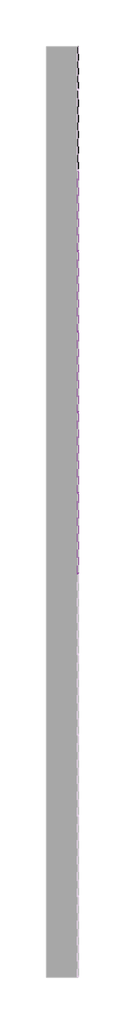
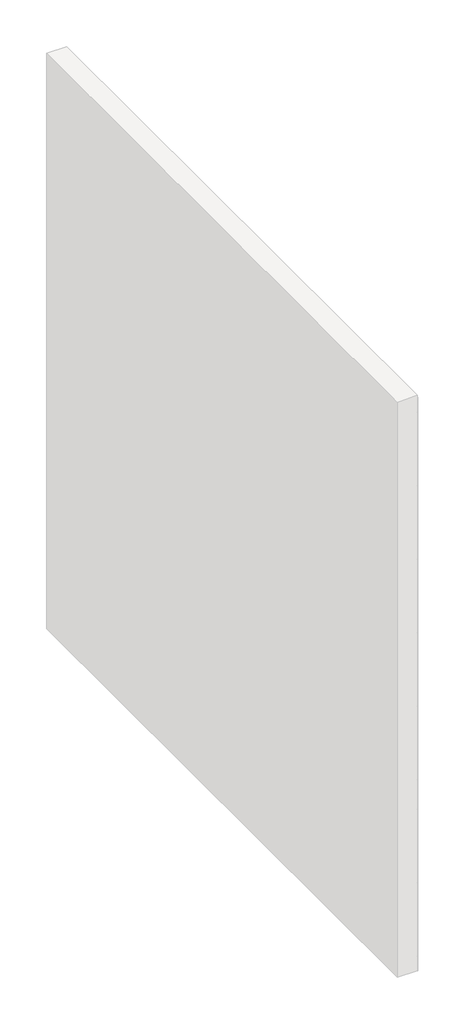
# One storey, part 41 of 45: 146 proxies.
"""IFC4 building model written with IfcOpenShell, lengths in millimetres."""

from ifc_helpers import new_model, si_unit, origin, place, context, project, spatial, transform, mapped, element, save
from components import generic_models_ab0f2c30, generic_models_1527efce

model = new_model("IFC4")

# Units and contexts
model_context = context("Model", 3, world=origin())
ifc_project = project(units=[si_unit("LENGTHUNIT", "METRE", prefix="MILLI")], contexts=[model_context])

# Site, building, storey
site = spatial("IfcSite", under=ifc_project)
building = spatial("IfcBuilding", under=site)
storey = spatial("IfcBuildingStorey", under=building, Name="PORTOBELLO - SHOWROOM", Elevation=0.0)

# Proxies
placement = place(None, origin())
generic_models_shape = generic_models_ab0f2c30(model_context)
element("IfcBuildingElementProxy", 1, Name="PBSHOP - HORIZONTES ZANZIBAR 6,5X23 : ZANZIBAR ARQUIPELAGO", ObjectType="PBSHOP - HORIZONTES ZANZIBAR 6,5X23 : ZANZIBAR ARQUIPELAGO", at=placement, inside=storey, context=model_context, shape_type="MappedRepresentation", body=[
    mapped(generic_models_shape, transform((66511.8826867, 22220.0864672, 34.5), x_axis=(0.0, 0.0, 1.0), y_axis=(0.0, -1.0, 0.0), z_axis=(1.0, 0.0, 0.0))),
])
element("IfcBuildingElementProxy", 2, Name="PBSHOP - HORIZONTES ZANZIBAR 6,5X23 : ZANZIBAR ARQUIPELAGO", ObjectType="PBSHOP - HORIZONTES ZANZIBAR 6,5X23 : ZANZIBAR ARQUIPELAGO", at=placement, inside=storey, context=model_context, shape_type="MappedRepresentation", body=[
    mapped(generic_models_shape, transform((66511.8826867, 22220.0864672, 103.5), x_axis=(0.0, 0.0, 1.0), y_axis=(0.0, -1.0, 0.0), z_axis=(1.0, 0.0, 0.0))),
])
element("IfcBuildingElementProxy", 3, Name="PBSHOP - HORIZONTES ZANZIBAR 6,5X23 : ZANZIBAR ARQUIPELAGO", ObjectType="PBSHOP - HORIZONTES ZANZIBAR 6,5X23 : ZANZIBAR ARQUIPELAGO", at=placement, inside=storey, context=model_context, shape_type="MappedRepresentation", body=[
    mapped(generic_models_shape, transform((66511.8826867, 22220.0864672, 172.5), x_axis=(0.0, 0.0, 1.0), y_axis=(0.0, -1.0, 0.0), z_axis=(1.0, 0.0, 0.0))),
])
element("IfcBuildingElementProxy", 4, Name="PBSHOP - HORIZONTES ZANZIBAR 6,5X23 : ZANZIBAR ARQUIPELAGO", ObjectType="PBSHOP - HORIZONTES ZANZIBAR 6,5X23 : ZANZIBAR ARQUIPELAGO", at=placement, inside=storey, context=model_context, shape_type="MappedRepresentation", body=[
    mapped(generic_models_shape, transform((66511.8826867, 22220.0864672, 241.5), x_axis=(0.0, 0.0, 1.0), y_axis=(0.0, -1.0, 0.0), z_axis=(1.0, 0.0, 0.0))),
])
element("IfcBuildingElementProxy", 5, Name="PBSHOP - HORIZONTES ZANZIBAR 6,5X23 : ZANZIBAR ARQUIPELAGO", ObjectType="PBSHOP - HORIZONTES ZANZIBAR 6,5X23 : ZANZIBAR ARQUIPELAGO", at=placement, inside=storey, context=model_context, shape_type="MappedRepresentation", body=[
    mapped(generic_models_shape, transform((66511.8826867, 22220.0864672, 310.5), x_axis=(0.0, 0.0, 1.0), y_axis=(0.0, -1.0, 0.0), z_axis=(1.0, 0.0, 0.0))),
])
element("IfcBuildingElementProxy", 6, Name="PBSHOP - HORIZONTES ZANZIBAR 6,5X23 : ZANZIBAR ARQUIPELAGO", ObjectType="PBSHOP - HORIZONTES ZANZIBAR 6,5X23 : ZANZIBAR ARQUIPELAGO", at=placement, inside=storey, context=model_context, shape_type="MappedRepresentation", body=[
    mapped(generic_models_shape, transform((66511.8826867, 22220.0864672, 379.5), x_axis=(0.0, 0.0, 1.0), y_axis=(0.0, -1.0, 0.0), z_axis=(1.0, 0.0, 0.0))),
])
element("IfcBuildingElementProxy", 7, Name="PBSHOP - HORIZONTES ZANZIBAR 6,5X23 : ZANZIBAR ARQUIPELAGO", ObjectType="PBSHOP - HORIZONTES ZANZIBAR 6,5X23 : ZANZIBAR ARQUIPELAGO", at=placement, inside=storey, context=model_context, shape_type="MappedRepresentation", body=[
    mapped(generic_models_shape, transform((66511.8826867, 22220.0864672, 448.5), x_axis=(0.0, 0.0, 1.0), y_axis=(0.0, -1.0, 0.0), z_axis=(1.0, 0.0, 0.0))),
])
element("IfcBuildingElementProxy", 8, Name="PBSHOP - HORIZONTES ZANZIBAR 6,5X23 : ZANZIBAR ARQUIPELAGO", ObjectType="PBSHOP - HORIZONTES ZANZIBAR 6,5X23 : ZANZIBAR ARQUIPELAGO", at=placement, inside=storey, context=model_context, shape_type="MappedRepresentation", body=[
    mapped(generic_models_shape, transform((66511.8826867, 22220.0864672, 517.5), x_axis=(0.0, 0.0, 1.0), y_axis=(0.0, -1.0, 0.0), z_axis=(1.0, 0.0, 0.0))),
])
element("IfcBuildingElementProxy", 9, Name="PBSHOP - HORIZONTES ZANZIBAR 6,5X23 : ZANZIBAR ARQUIPELAGO", ObjectType="PBSHOP - HORIZONTES ZANZIBAR 6,5X23 : ZANZIBAR ARQUIPELAGO", at=placement, inside=storey, context=model_context, shape_type="MappedRepresentation", body=[
    mapped(generic_models_shape, transform((66511.8826867, 22220.0864672, 586.5), x_axis=(0.0, 0.0, 1.0), y_axis=(0.0, -1.0, 0.0), z_axis=(1.0, 0.0, 0.0))),
])
element("IfcBuildingElementProxy", 10, Name="PBSHOP - HORIZONTES ZANZIBAR 6,5X23 : ZANZIBAR ARQUIPELAGO", ObjectType="PBSHOP - HORIZONTES ZANZIBAR 6,5X23 : ZANZIBAR ARQUIPELAGO", at=placement, inside=storey, context=model_context, shape_type="MappedRepresentation", body=[
    mapped(generic_models_shape, transform((66511.8826867, 22220.0864672, 655.5), x_axis=(0.0, 0.0, 1.0), y_axis=(0.0, -1.0, 0.0), z_axis=(1.0, 0.0, 0.0))),
])
element("IfcBuildingElementProxy", 11, Name="PBSHOP - HORIZONTES ZANZIBAR 6,5X23 : ZANZIBAR ARQUIPELAGO", ObjectType="PBSHOP - HORIZONTES ZANZIBAR 6,5X23 : ZANZIBAR ARQUIPELAGO", at=placement, inside=storey, context=model_context, shape_type="MappedRepresentation", body=[
    mapped(generic_models_shape, transform((66511.8826867, 22220.0864672, 724.5), x_axis=(0.0, 0.0, 1.0), y_axis=(0.0, -1.0, 0.0), z_axis=(1.0, 0.0, 0.0))),
])
element("IfcBuildingElementProxy", 12, Name="PBSHOP - HORIZONTES ZANZIBAR 6,5X23 : ZANZIBAR ARQUIPELAGO", ObjectType="PBSHOP - HORIZONTES ZANZIBAR 6,5X23 : ZANZIBAR ARQUIPELAGO", at=placement, inside=storey, context=model_context, shape_type="MappedRepresentation", body=[
    mapped(generic_models_shape, transform((66511.8826867, 22220.0864672, 793.5), x_axis=(0.0, 0.0, 1.0), y_axis=(0.0, -1.0, 0.0), z_axis=(1.0, 0.0, 0.0))),
])
element("IfcBuildingElementProxy", 13, Name="PBSHOP - HORIZONTES ZANZIBAR 6,5X23 : ZANZIBAR ARQUIPELAGO", ObjectType="PBSHOP - HORIZONTES ZANZIBAR 6,5X23 : ZANZIBAR ARQUIPELAGO", at=placement, inside=storey, context=model_context, shape_type="MappedRepresentation", body=[
    mapped(generic_models_shape, transform((66511.8826867, 22220.0864672, 862.5), x_axis=(0.0, 0.0, 1.0), y_axis=(0.0, -1.0, 0.0), z_axis=(1.0, 0.0, 0.0))),
])
element("IfcBuildingElementProxy", 14, Name="PBSHOP - HORIZONTES ZANZIBAR 6,5X23 : ZANZIBAR ARQUIPELAGO", ObjectType="PBSHOP - HORIZONTES ZANZIBAR 6,5X23 : ZANZIBAR ARQUIPELAGO", at=placement, inside=storey, context=model_context, shape_type="MappedRepresentation", body=[
    mapped(generic_models_shape, transform((66511.8826867, 22220.0864672, 931.5), x_axis=(0.0, 0.0, 1.0), y_axis=(0.0, -1.0, 0.0), z_axis=(1.0, 0.0, 0.0))),
])
element("IfcBuildingElementProxy", 15, Name="PBSHOP - HORIZONTES ZANZIBAR 6,5X23 : ZANZIBAR ARQUIPELAGO", ObjectType="PBSHOP - HORIZONTES ZANZIBAR 6,5X23 : ZANZIBAR ARQUIPELAGO", at=placement, inside=storey, context=model_context, shape_type="MappedRepresentation", body=[
    mapped(generic_models_shape, transform((66511.8826867, 22220.0864672, 1000.5), x_axis=(0.0, 0.0, 1.0), y_axis=(0.0, -1.0, 0.0), z_axis=(1.0, 0.0, 0.0))),
])
element("IfcBuildingElementProxy", 16, Name="PBSHOP - HORIZONTES ZANZIBAR 6,5X23 : ZANZIBAR ARQUIPELAGO", ObjectType="PBSHOP - HORIZONTES ZANZIBAR 6,5X23 : ZANZIBAR ARQUIPELAGO", at=placement, inside=storey, context=model_context, shape_type="MappedRepresentation", body=[
    mapped(generic_models_shape, transform((66511.8826867, 22220.0864672, 1069.5), x_axis=(0.0, 0.0, 1.0), y_axis=(0.0, -1.0, 0.0), z_axis=(1.0, 0.0, 0.0))),
])
element("IfcBuildingElementProxy", 17, Name="PBSHOP - HORIZONTES ZANZIBAR 6,5X23 : ZANZIBAR ARQUIPELAGO", ObjectType="PBSHOP - HORIZONTES ZANZIBAR 6,5X23 : ZANZIBAR ARQUIPELAGO", at=placement, inside=storey, context=model_context, shape_type="MappedRepresentation", body=[
    mapped(generic_models_shape, transform((66511.8826867, 22220.0864672, 1138.5), x_axis=(0.0, 0.0, 1.0), y_axis=(0.0, -1.0, 0.0), z_axis=(1.0, 0.0, 0.0))),
])
element("IfcBuildingElementProxy", 18, Name="PBSHOP - HORIZONTES ZANZIBAR 6,5X23 : ZANZIBAR ARQUIPELAGO", ObjectType="PBSHOP - HORIZONTES ZANZIBAR 6,5X23 : ZANZIBAR ARQUIPELAGO", at=placement, inside=storey, context=model_context, shape_type="MappedRepresentation", body=[
    mapped(generic_models_shape, transform((66511.8826867, 22220.0864672, 1207.5), x_axis=(0.0, 0.0, 1.0), y_axis=(0.0, -1.0, 0.0), z_axis=(1.0, 0.0, 0.0))),
])
element("IfcBuildingElementProxy", 19, Name="PBSHOP - HORIZONTES ZANZIBAR 6,5X23 : ZANZIBAR ARQUIPELAGO", ObjectType="PBSHOP - HORIZONTES ZANZIBAR 6,5X23 : ZANZIBAR ARQUIPELAGO", at=placement, inside=storey, context=model_context, shape_type="MappedRepresentation", body=[
    mapped(generic_models_shape, transform((66511.8826867, 22220.0864672, 1276.5), x_axis=(0.0, 0.0, 1.0), y_axis=(0.0, -1.0, 0.0), z_axis=(1.0, 0.0, 0.0))),
])
element("IfcBuildingElementProxy", 20, Name="PBSHOP - HORIZONTES ZANZIBAR 6,5X23 : ZANZIBAR ARQUIPELAGO", ObjectType="PBSHOP - HORIZONTES ZANZIBAR 6,5X23 : ZANZIBAR ARQUIPELAGO", at=placement, inside=storey, context=model_context, shape_type="MappedRepresentation", body=[
    mapped(generic_models_shape, transform((66511.8826867, 21986.0864672, 1345.5), x_axis=(0.0, 0.0, 1.0), y_axis=(0.0, -1.0, 0.0), z_axis=(1.0, 0.0, 0.0))),
])
element("IfcBuildingElementProxy", 21, Name="PBSHOP - HORIZONTES ZANZIBAR 6,5X23 : ZANZIBAR ARQUIPELAGO", ObjectType="PBSHOP - HORIZONTES ZANZIBAR 6,5X23 : ZANZIBAR ARQUIPELAGO", at=placement, inside=storey, context=model_context, shape_type="MappedRepresentation", body=[
    mapped(generic_models_shape, transform((66511.8826867, 22220.0864672, 1345.5), x_axis=(0.0, 0.0, 1.0), y_axis=(0.0, -1.0, 0.0), z_axis=(1.0, 0.0, 0.0))),
])
element("IfcBuildingElementProxy", 22, Name="PBSHOP - HORIZONTES ZANZIBAR 6,5X23 : ZANZIBAR ARQUIPELAGO", ObjectType="PBSHOP - HORIZONTES ZANZIBAR 6,5X23 : ZANZIBAR ARQUIPELAGO", at=placement, inside=storey, context=model_context, shape_type="MappedRepresentation", body=[
    mapped(generic_models_shape, transform((66511.8826867, 21050.0864672, 1414.5), x_axis=(0.0, 0.0, 1.0), y_axis=(0.0, -1.0, 0.0), z_axis=(1.0, 0.0, 0.0))),
])
element("IfcBuildingElementProxy", 23, Name="PBSHOP - HORIZONTES ZANZIBAR 6,5X23 : ZANZIBAR ARQUIPELAGO", ObjectType="PBSHOP - HORIZONTES ZANZIBAR 6,5X23 : ZANZIBAR ARQUIPELAGO", at=placement, inside=storey, context=model_context, shape_type="MappedRepresentation", body=[
    mapped(generic_models_shape, transform((66511.8826867, 21284.0864672, 1414.5), x_axis=(0.0, 0.0, 1.0), y_axis=(0.0, -1.0, 0.0), z_axis=(1.0, 0.0, 0.0))),
])
element("IfcBuildingElementProxy", 24, Name="PBSHOP - HORIZONTES ZANZIBAR 6,5X23 : ZANZIBAR ARQUIPELAGO", ObjectType="PBSHOP - HORIZONTES ZANZIBAR 6,5X23 : ZANZIBAR ARQUIPELAGO", at=placement, inside=storey, context=model_context, shape_type="MappedRepresentation", body=[
    mapped(generic_models_shape, transform((66511.8826867, 21518.0864672, 1414.5), x_axis=(0.0, 0.0, 1.0), y_axis=(0.0, -1.0, 0.0), z_axis=(1.0, 0.0, 0.0))),
])
element("IfcBuildingElementProxy", 25, Name="PBSHOP - HORIZONTES ZANZIBAR 6,5X23 : ZANZIBAR ARQUIPELAGO", ObjectType="PBSHOP - HORIZONTES ZANZIBAR 6,5X23 : ZANZIBAR ARQUIPELAGO", at=placement, inside=storey, context=model_context, shape_type="MappedRepresentation", body=[
    mapped(generic_models_shape, transform((66511.8826867, 21752.0864672, 1414.5), x_axis=(0.0, 0.0, 1.0), y_axis=(0.0, -1.0, 0.0), z_axis=(1.0, 0.0, 0.0))),
])
element("IfcBuildingElementProxy", 26, Name="PBSHOP - HORIZONTES ZANZIBAR 6,5X23 : ZANZIBAR ARQUIPELAGO", ObjectType="PBSHOP - HORIZONTES ZANZIBAR 6,5X23 : ZANZIBAR ARQUIPELAGO", at=placement, inside=storey, context=model_context, shape_type="MappedRepresentation", body=[
    mapped(generic_models_shape, transform((66511.8826867, 21986.0864672, 1414.5), x_axis=(0.0, 0.0, 1.0), y_axis=(0.0, -1.0, 0.0), z_axis=(1.0, 0.0, 0.0))),
])
element("IfcBuildingElementProxy", 27, Name="PBSHOP - HORIZONTES ZANZIBAR 6,5X23 : ZANZIBAR ARQUIPELAGO", ObjectType="PBSHOP - HORIZONTES ZANZIBAR 6,5X23 : ZANZIBAR ARQUIPELAGO", at=placement, inside=storey, context=model_context, shape_type="MappedRepresentation", body=[
    mapped(generic_models_shape, transform((66511.8826867, 22220.0864672, 1414.5), x_axis=(0.0, 0.0, 1.0), y_axis=(0.0, -1.0, 0.0), z_axis=(1.0, 0.0, 0.0))),
])
element("IfcBuildingElementProxy", 28, Name="PBSHOP - HORIZONTES ZANZIBAR 6,5X23 : ZANZIBAR ARQUIPELAGO", ObjectType="PBSHOP - HORIZONTES ZANZIBAR 6,5X23 : ZANZIBAR ARQUIPELAGO", at=placement, inside=storey, context=model_context, shape_type="MappedRepresentation", body=[
    mapped(generic_models_shape, transform((66511.8826867, 21050.0864672, 1483.5), x_axis=(0.0, 0.0, 1.0), y_axis=(0.0, -1.0, 0.0), z_axis=(1.0, 0.0, 0.0))),
])
element("IfcBuildingElementProxy", 29, Name="PBSHOP - HORIZONTES ZANZIBAR 6,5X23 : ZANZIBAR ARQUIPELAGO", ObjectType="PBSHOP - HORIZONTES ZANZIBAR 6,5X23 : ZANZIBAR ARQUIPELAGO", at=placement, inside=storey, context=model_context, shape_type="MappedRepresentation", body=[
    mapped(generic_models_shape, transform((66511.8826867, 21284.0864672, 1483.5), x_axis=(0.0, 0.0, 1.0), y_axis=(0.0, -1.0, 0.0), z_axis=(1.0, 0.0, 0.0))),
])
element("IfcBuildingElementProxy", 30, Name="PBSHOP - HORIZONTES ZANZIBAR 6,5X23 : ZANZIBAR ARQUIPELAGO", ObjectType="PBSHOP - HORIZONTES ZANZIBAR 6,5X23 : ZANZIBAR ARQUIPELAGO", at=placement, inside=storey, context=model_context, shape_type="MappedRepresentation", body=[
    mapped(generic_models_shape, transform((66511.8826867, 21518.0864672, 1483.5), x_axis=(0.0, 0.0, 1.0), y_axis=(0.0, -1.0, 0.0), z_axis=(1.0, 0.0, 0.0))),
])
element("IfcBuildingElementProxy", 31, Name="PBSHOP - HORIZONTES ZANZIBAR 6,5X23 : ZANZIBAR ARQUIPELAGO", ObjectType="PBSHOP - HORIZONTES ZANZIBAR 6,5X23 : ZANZIBAR ARQUIPELAGO", at=placement, inside=storey, context=model_context, shape_type="MappedRepresentation", body=[
    mapped(generic_models_shape, transform((66511.8826867, 21752.0864672, 1483.5), x_axis=(0.0, 0.0, 1.0), y_axis=(0.0, -1.0, 0.0), z_axis=(1.0, 0.0, 0.0))),
])
element("IfcBuildingElementProxy", 32, Name="PBSHOP - HORIZONTES ZANZIBAR 6,5X23 : ZANZIBAR ARQUIPELAGO", ObjectType="PBSHOP - HORIZONTES ZANZIBAR 6,5X23 : ZANZIBAR ARQUIPELAGO", at=placement, inside=storey, context=model_context, shape_type="MappedRepresentation", body=[
    mapped(generic_models_shape, transform((66511.8826867, 21986.0864672, 1483.5), x_axis=(0.0, 0.0, 1.0), y_axis=(0.0, -1.0, 0.0), z_axis=(1.0, 0.0, 0.0))),
])
element("IfcBuildingElementProxy", 33, Name="PBSHOP - HORIZONTES ZANZIBAR 6,5X23 : ZANZIBAR ARQUIPELAGO", ObjectType="PBSHOP - HORIZONTES ZANZIBAR 6,5X23 : ZANZIBAR ARQUIPELAGO", at=placement, inside=storey, context=model_context, shape_type="MappedRepresentation", body=[
    mapped(generic_models_shape, transform((66511.8826867, 22220.0864672, 1483.5), x_axis=(0.0, 0.0, 1.0), y_axis=(0.0, -1.0, 0.0), z_axis=(1.0, 0.0, 0.0))),
])
element("IfcBuildingElementProxy", 34, Name="PBSHOP - HORIZONTES ZANZIBAR 6,5X23 : ZANZIBAR ARQUIPELAGO", ObjectType="PBSHOP - HORIZONTES ZANZIBAR 6,5X23 : ZANZIBAR ARQUIPELAGO", at=placement, inside=storey, context=model_context, shape_type="MappedRepresentation", body=[
    mapped(generic_models_shape, transform((66511.8826867, 21050.0864672, 1552.5), x_axis=(0.0, 0.0, 1.0), y_axis=(0.0, -1.0, 0.0), z_axis=(1.0, 0.0, 0.0))),
])
element("IfcBuildingElementProxy", 35, Name="PBSHOP - HORIZONTES ZANZIBAR 6,5X23 : ZANZIBAR ARQUIPELAGO", ObjectType="PBSHOP - HORIZONTES ZANZIBAR 6,5X23 : ZANZIBAR ARQUIPELAGO", at=placement, inside=storey, context=model_context, shape_type="MappedRepresentation", body=[
    mapped(generic_models_shape, transform((66511.8826867, 21284.0864672, 1552.5), x_axis=(0.0, 0.0, 1.0), y_axis=(0.0, -1.0, 0.0), z_axis=(1.0, 0.0, 0.0))),
])
element("IfcBuildingElementProxy", 36, Name="PBSHOP - HORIZONTES ZANZIBAR 6,5X23 : ZANZIBAR ARQUIPELAGO", ObjectType="PBSHOP - HORIZONTES ZANZIBAR 6,5X23 : ZANZIBAR ARQUIPELAGO", at=placement, inside=storey, context=model_context, shape_type="MappedRepresentation", body=[
    mapped(generic_models_shape, transform((66511.8826867, 21518.0864672, 1552.5), x_axis=(0.0, 0.0, 1.0), y_axis=(0.0, -1.0, 0.0), z_axis=(1.0, 0.0, 0.0))),
])
element("IfcBuildingElementProxy", 37, Name="PBSHOP - HORIZONTES ZANZIBAR 6,5X23 : ZANZIBAR ARQUIPELAGO", ObjectType="PBSHOP - HORIZONTES ZANZIBAR 6,5X23 : ZANZIBAR ARQUIPELAGO", at=placement, inside=storey, context=model_context, shape_type="MappedRepresentation", body=[
    mapped(generic_models_shape, transform((66511.8826867, 21752.0864672, 1552.5), x_axis=(0.0, 0.0, 1.0), y_axis=(0.0, -1.0, 0.0), z_axis=(1.0, 0.0, 0.0))),
])
element("IfcBuildingElementProxy", 38, Name="PBSHOP - HORIZONTES ZANZIBAR 6,5X23 : ZANZIBAR ARQUIPELAGO", ObjectType="PBSHOP - HORIZONTES ZANZIBAR 6,5X23 : ZANZIBAR ARQUIPELAGO", at=placement, inside=storey, context=model_context, shape_type="MappedRepresentation", body=[
    mapped(generic_models_shape, transform((66511.8826867, 21986.0864672, 1552.5), x_axis=(0.0, 0.0, 1.0), y_axis=(0.0, -1.0, 0.0), z_axis=(1.0, 0.0, 0.0))),
])
element("IfcBuildingElementProxy", 39, Name="PBSHOP - HORIZONTES ZANZIBAR 6,5X23 : ZANZIBAR ARQUIPELAGO", ObjectType="PBSHOP - HORIZONTES ZANZIBAR 6,5X23 : ZANZIBAR ARQUIPELAGO", at=placement, inside=storey, context=model_context, shape_type="MappedRepresentation", body=[
    mapped(generic_models_shape, transform((66511.8826867, 22220.0864672, 1552.5), x_axis=(0.0, 0.0, 1.0), y_axis=(0.0, -1.0, 0.0), z_axis=(1.0, 0.0, 0.0))),
])
element("IfcBuildingElementProxy", 40, Name="PBSHOP - HORIZONTES ZANZIBAR 6,5X23 : ZANZIBAR ARQUIPELAGO", ObjectType="PBSHOP - HORIZONTES ZANZIBAR 6,5X23 : ZANZIBAR ARQUIPELAGO", at=placement, inside=storey, context=model_context, shape_type="MappedRepresentation", body=[
    mapped(generic_models_shape, transform((66511.8826867, 21050.0864672, 1621.5), x_axis=(0.0, 0.0, 1.0), y_axis=(0.0, -1.0, 0.0), z_axis=(1.0, 0.0, 0.0))),
])
element("IfcBuildingElementProxy", 41, Name="PBSHOP - HORIZONTES ZANZIBAR 6,5X23 : ZANZIBAR ARQUIPELAGO", ObjectType="PBSHOP - HORIZONTES ZANZIBAR 6,5X23 : ZANZIBAR ARQUIPELAGO", at=placement, inside=storey, context=model_context, shape_type="MappedRepresentation", body=[
    mapped(generic_models_shape, transform((66511.8826867, 21284.0864672, 1621.5), x_axis=(0.0, 0.0, 1.0), y_axis=(0.0, -1.0, 0.0), z_axis=(1.0, 0.0, 0.0))),
])
element("IfcBuildingElementProxy", 42, Name="PBSHOP - HORIZONTES ZANZIBAR 6,5X23 : ZANZIBAR ARQUIPELAGO", ObjectType="PBSHOP - HORIZONTES ZANZIBAR 6,5X23 : ZANZIBAR ARQUIPELAGO", at=placement, inside=storey, context=model_context, shape_type="MappedRepresentation", body=[
    mapped(generic_models_shape, transform((66511.8826867, 21518.0864672, 1621.5), x_axis=(0.0, 0.0, 1.0), y_axis=(0.0, -1.0, 0.0), z_axis=(1.0, 0.0, 0.0))),
])
element("IfcBuildingElementProxy", 43, Name="PBSHOP - HORIZONTES ZANZIBAR 6,5X23 : ZANZIBAR ARQUIPELAGO", ObjectType="PBSHOP - HORIZONTES ZANZIBAR 6,5X23 : ZANZIBAR ARQUIPELAGO", at=placement, inside=storey, context=model_context, shape_type="MappedRepresentation", body=[
    mapped(generic_models_shape, transform((66511.8826867, 21752.0864672, 1621.5), x_axis=(0.0, 0.0, 1.0), y_axis=(0.0, -1.0, 0.0), z_axis=(1.0, 0.0, 0.0))),
])
element("IfcBuildingElementProxy", 44, Name="PBSHOP - HORIZONTES ZANZIBAR 6,5X23 : ZANZIBAR ARQUIPELAGO", ObjectType="PBSHOP - HORIZONTES ZANZIBAR 6,5X23 : ZANZIBAR ARQUIPELAGO", at=placement, inside=storey, context=model_context, shape_type="MappedRepresentation", body=[
    mapped(generic_models_shape, transform((66511.8826867, 21986.0864672, 1621.5), x_axis=(0.0, 0.0, 1.0), y_axis=(0.0, -1.0, 0.0), z_axis=(1.0, 0.0, 0.0))),
])
element("IfcBuildingElementProxy", 45, Name="PBSHOP - HORIZONTES ZANZIBAR 6,5X23 : ZANZIBAR ARQUIPELAGO", ObjectType="PBSHOP - HORIZONTES ZANZIBAR 6,5X23 : ZANZIBAR ARQUIPELAGO", at=placement, inside=storey, context=model_context, shape_type="MappedRepresentation", body=[
    mapped(generic_models_shape, transform((66511.8826867, 22220.0864672, 1621.5), x_axis=(0.0, 0.0, 1.0), y_axis=(0.0, -1.0, 0.0), z_axis=(1.0, 0.0, 0.0))),
])
element("IfcBuildingElementProxy", 46, Name="PBSHOP - HORIZONTES ZANZIBAR 6,5X23 : ZANZIBAR ARQUIPELAGO", ObjectType="PBSHOP - HORIZONTES ZANZIBAR 6,5X23 : ZANZIBAR ARQUIPELAGO", at=placement, inside=storey, context=model_context, shape_type="MappedRepresentation", body=[
    mapped(generic_models_shape, transform((66511.8826867, 21050.0864672, 1690.5), x_axis=(0.0, 0.0, 1.0), y_axis=(0.0, -1.0, 0.0), z_axis=(1.0, 0.0, 0.0))),
])
element("IfcBuildingElementProxy", 47, Name="PBSHOP - HORIZONTES ZANZIBAR 6,5X23 : ZANZIBAR ARQUIPELAGO", ObjectType="PBSHOP - HORIZONTES ZANZIBAR 6,5X23 : ZANZIBAR ARQUIPELAGO", at=placement, inside=storey, context=model_context, shape_type="MappedRepresentation", body=[
    mapped(generic_models_shape, transform((66511.8826867, 21284.0864672, 1690.5), x_axis=(0.0, 0.0, 1.0), y_axis=(0.0, -1.0, 0.0), z_axis=(1.0, 0.0, 0.0))),
])
element("IfcBuildingElementProxy", 48, Name="PBSHOP - HORIZONTES ZANZIBAR 6,5X23 : ZANZIBAR ARQUIPELAGO", ObjectType="PBSHOP - HORIZONTES ZANZIBAR 6,5X23 : ZANZIBAR ARQUIPELAGO", at=placement, inside=storey, context=model_context, shape_type="MappedRepresentation", body=[
    mapped(generic_models_shape, transform((66511.8826867, 21518.0864672, 1690.5), x_axis=(0.0, 0.0, 1.0), y_axis=(0.0, -1.0, 0.0), z_axis=(1.0, 0.0, 0.0))),
])
element("IfcBuildingElementProxy", 49, Name="PBSHOP - HORIZONTES ZANZIBAR 6,5X23 : ZANZIBAR ARQUIPELAGO", ObjectType="PBSHOP - HORIZONTES ZANZIBAR 6,5X23 : ZANZIBAR ARQUIPELAGO", at=placement, inside=storey, context=model_context, shape_type="MappedRepresentation", body=[
    mapped(generic_models_shape, transform((66511.8826867, 21752.0864672, 1690.5), x_axis=(0.0, 0.0, 1.0), y_axis=(0.0, -1.0, 0.0), z_axis=(1.0, 0.0, 0.0))),
])
element("IfcBuildingElementProxy", 50, Name="PBSHOP - HORIZONTES ZANZIBAR 6,5X23 : ZANZIBAR ARQUIPELAGO", ObjectType="PBSHOP - HORIZONTES ZANZIBAR 6,5X23 : ZANZIBAR ARQUIPELAGO", at=placement, inside=storey, context=model_context, shape_type="MappedRepresentation", body=[
    mapped(generic_models_shape, transform((66511.8826867, 21986.0864672, 1690.5), x_axis=(0.0, 0.0, 1.0), y_axis=(0.0, -1.0, 0.0), z_axis=(1.0, 0.0, 0.0))),
])
element("IfcBuildingElementProxy", 51, Name="PBSHOP - HORIZONTES ZANZIBAR 6,5X23 : ZANZIBAR ARQUIPELAGO", ObjectType="PBSHOP - HORIZONTES ZANZIBAR 6,5X23 : ZANZIBAR ARQUIPELAGO", at=placement, inside=storey, context=model_context, shape_type="MappedRepresentation", body=[
    mapped(generic_models_shape, transform((66511.8826867, 22220.0864672, 1690.5), x_axis=(0.0, 0.0, 1.0), y_axis=(0.0, -1.0, 0.0), z_axis=(1.0, 0.0, 0.0))),
])
element("IfcBuildingElementProxy", 52, Name="PBSHOP - HORIZONTES ZANZIBAR 6,5X23 : ZANZIBAR ARQUIPELAGO", ObjectType="PBSHOP - HORIZONTES ZANZIBAR 6,5X23 : ZANZIBAR ARQUIPELAGO", at=placement, inside=storey, context=model_context, shape_type="MappedRepresentation", body=[
    mapped(generic_models_shape, transform((66511.8826867, 21050.0864672, 1759.5), x_axis=(0.0, 0.0, 1.0), y_axis=(0.0, -1.0, 0.0), z_axis=(1.0, 0.0, 0.0))),
])
element("IfcBuildingElementProxy", 53, Name="PBSHOP - HORIZONTES ZANZIBAR 6,5X23 : ZANZIBAR ARQUIPELAGO", ObjectType="PBSHOP - HORIZONTES ZANZIBAR 6,5X23 : ZANZIBAR ARQUIPELAGO", at=placement, inside=storey, context=model_context, shape_type="MappedRepresentation", body=[
    mapped(generic_models_shape, transform((66511.8826867, 21284.0864672, 1759.5), x_axis=(0.0, 0.0, 1.0), y_axis=(0.0, -1.0, 0.0), z_axis=(1.0, 0.0, 0.0))),
])
element("IfcBuildingElementProxy", 54, Name="PBSHOP - HORIZONTES ZANZIBAR 6,5X23 : ZANZIBAR ARQUIPELAGO", ObjectType="PBSHOP - HORIZONTES ZANZIBAR 6,5X23 : ZANZIBAR ARQUIPELAGO", at=placement, inside=storey, context=model_context, shape_type="MappedRepresentation", body=[
    mapped(generic_models_shape, transform((66511.8826867, 21518.0864672, 1759.5), x_axis=(0.0, 0.0, 1.0), y_axis=(0.0, -1.0, 0.0), z_axis=(1.0, 0.0, 0.0))),
])
element("IfcBuildingElementProxy", 55, Name="PBSHOP - HORIZONTES ZANZIBAR 6,5X23 : ZANZIBAR ARQUIPELAGO", ObjectType="PBSHOP - HORIZONTES ZANZIBAR 6,5X23 : ZANZIBAR ARQUIPELAGO", at=placement, inside=storey, context=model_context, shape_type="MappedRepresentation", body=[
    mapped(generic_models_shape, transform((66511.8826867, 21752.0864672, 1759.5), x_axis=(0.0, 0.0, 1.0), y_axis=(0.0, -1.0, 0.0), z_axis=(1.0, 0.0, 0.0))),
])
element("IfcBuildingElementProxy", 56, Name="PBSHOP - HORIZONTES ZANZIBAR 6,5X23 : ZANZIBAR ARQUIPELAGO", ObjectType="PBSHOP - HORIZONTES ZANZIBAR 6,5X23 : ZANZIBAR ARQUIPELAGO", at=placement, inside=storey, context=model_context, shape_type="MappedRepresentation", body=[
    mapped(generic_models_shape, transform((66511.8826867, 21986.0864672, 1759.5), x_axis=(0.0, 0.0, 1.0), y_axis=(0.0, -1.0, 0.0), z_axis=(1.0, 0.0, 0.0))),
])
element("IfcBuildingElementProxy", 57, Name="PBSHOP - HORIZONTES ZANZIBAR 6,5X23 : ZANZIBAR ARQUIPELAGO", ObjectType="PBSHOP - HORIZONTES ZANZIBAR 6,5X23 : ZANZIBAR ARQUIPELAGO", at=placement, inside=storey, context=model_context, shape_type="MappedRepresentation", body=[
    mapped(generic_models_shape, transform((66511.8826867, 21050.0864672, 1828.5), x_axis=(0.0, 0.0, 1.0), y_axis=(0.0, -1.0, 0.0), z_axis=(1.0, 0.0, 0.0))),
])
element("IfcBuildingElementProxy", 58, Name="PBSHOP - HORIZONTES ZANZIBAR 6,5X23 : ZANZIBAR ARQUIPELAGO", ObjectType="PBSHOP - HORIZONTES ZANZIBAR 6,5X23 : ZANZIBAR ARQUIPELAGO", at=placement, inside=storey, context=model_context, shape_type="MappedRepresentation", body=[
    mapped(generic_models_shape, transform((66511.8826867, 21284.0864672, 1828.5), x_axis=(0.0, 0.0, 1.0), y_axis=(0.0, -1.0, 0.0), z_axis=(1.0, 0.0, 0.0))),
])
element("IfcBuildingElementProxy", 59, Name="PBSHOP - HORIZONTES ZANZIBAR 6,5X23 : ZANZIBAR ARQUIPELAGO", ObjectType="PBSHOP - HORIZONTES ZANZIBAR 6,5X23 : ZANZIBAR ARQUIPELAGO", at=placement, inside=storey, context=model_context, shape_type="MappedRepresentation", body=[
    mapped(generic_models_shape, transform((66511.8826867, 21518.0864672, 1828.5), x_axis=(0.0, 0.0, 1.0), y_axis=(0.0, -1.0, 0.0), z_axis=(1.0, 0.0, 0.0))),
])
element("IfcBuildingElementProxy", 60, Name="PBSHOP - HORIZONTES ZANZIBAR 6,5X23 : ZANZIBAR ARQUIPELAGO", ObjectType="PBSHOP - HORIZONTES ZANZIBAR 6,5X23 : ZANZIBAR ARQUIPELAGO", at=placement, inside=storey, context=model_context, shape_type="MappedRepresentation", body=[
    mapped(generic_models_shape, transform((66511.8826867, 21752.0864672, 1828.5), x_axis=(0.0, 0.0, 1.0), y_axis=(0.0, -1.0, 0.0), z_axis=(1.0, 0.0, 0.0))),
])
element("IfcBuildingElementProxy", 61, Name="PBSHOP - HORIZONTES ZANZIBAR 6,5X23 : ZANZIBAR ARQUIPELAGO", ObjectType="PBSHOP - HORIZONTES ZANZIBAR 6,5X23 : ZANZIBAR ARQUIPELAGO", at=placement, inside=storey, context=model_context, shape_type="MappedRepresentation", body=[
    mapped(generic_models_shape, transform((66511.8826867, 21986.0864672, 1828.5), x_axis=(0.0, 0.0, 1.0), y_axis=(0.0, -1.0, 0.0), z_axis=(1.0, 0.0, 0.0))),
])
element("IfcBuildingElementProxy", 62, Name="PBSHOP - HORIZONTES ZANZIBAR 6,5X23 : ZANZIBAR ARQUIPELAGO", ObjectType="PBSHOP - HORIZONTES ZANZIBAR 6,5X23 : ZANZIBAR ARQUIPELAGO", at=placement, inside=storey, context=model_context, shape_type="MappedRepresentation", body=[
    mapped(generic_models_shape, transform((66511.8826867, 21050.0864672, 1897.5), x_axis=(0.0, 0.0, 1.0), y_axis=(0.0, -1.0, 0.0), z_axis=(1.0, 0.0, 0.0))),
])
element("IfcBuildingElementProxy", 63, Name="PBSHOP - HORIZONTES ZANZIBAR 6,5X23 : ZANZIBAR ARQUIPELAGO", ObjectType="PBSHOP - HORIZONTES ZANZIBAR 6,5X23 : ZANZIBAR ARQUIPELAGO", at=placement, inside=storey, context=model_context, shape_type="MappedRepresentation", body=[
    mapped(generic_models_shape, transform((66511.8826867, 21284.0864672, 1897.5), x_axis=(0.0, 0.0, 1.0), y_axis=(0.0, -1.0, 0.0), z_axis=(1.0, 0.0, 0.0))),
])
element("IfcBuildingElementProxy", 64, Name="PBSHOP - HORIZONTES ZANZIBAR 6,5X23 : ZANZIBAR ARQUIPELAGO", ObjectType="PBSHOP - HORIZONTES ZANZIBAR 6,5X23 : ZANZIBAR ARQUIPELAGO", at=placement, inside=storey, context=model_context, shape_type="MappedRepresentation", body=[
    mapped(generic_models_shape, transform((66511.8826867, 21518.0864672, 1897.5), x_axis=(0.0, 0.0, 1.0), y_axis=(0.0, -1.0, 0.0), z_axis=(1.0, 0.0, 0.0))),
])
element("IfcBuildingElementProxy", 65, Name="PBSHOP - HORIZONTES ZANZIBAR 6,5X23 : ZANZIBAR ARQUIPELAGO", ObjectType="PBSHOP - HORIZONTES ZANZIBAR 6,5X23 : ZANZIBAR ARQUIPELAGO", at=placement, inside=storey, context=model_context, shape_type="MappedRepresentation", body=[
    mapped(generic_models_shape, transform((66511.8826867, 21752.0864672, 1897.5), x_axis=(0.0, 0.0, 1.0), y_axis=(0.0, -1.0, 0.0), z_axis=(1.0, 0.0, 0.0))),
])
element("IfcBuildingElementProxy", 66, Name="PBSHOP - HORIZONTES ZANZIBAR 6,5X23 : ZANZIBAR ARQUIPELAGO", ObjectType="PBSHOP - HORIZONTES ZANZIBAR 6,5X23 : ZANZIBAR ARQUIPELAGO", at=placement, inside=storey, context=model_context, shape_type="MappedRepresentation", body=[
    mapped(generic_models_shape, transform((66511.8826867, 21986.0864672, 1897.5), x_axis=(0.0, 0.0, 1.0), y_axis=(0.0, -1.0, 0.0), z_axis=(1.0, 0.0, 0.0))),
])
element("IfcBuildingElementProxy", 67, Name="PBSHOP - HORIZONTES ZANZIBAR 6,5X23 : ZANZIBAR ARQUIPELAGO", ObjectType="PBSHOP - HORIZONTES ZANZIBAR 6,5X23 : ZANZIBAR ARQUIPELAGO", at=placement, inside=storey, context=model_context, shape_type="MappedRepresentation", body=[
    mapped(generic_models_shape, transform((66511.8826867, 21050.0864672, 1966.5), x_axis=(0.0, 0.0, 1.0), y_axis=(0.0, -1.0, 0.0), z_axis=(1.0, 0.0, 0.0))),
])
element("IfcBuildingElementProxy", 68, Name="PBSHOP - HORIZONTES ZANZIBAR 6,5X23 : ZANZIBAR ARQUIPELAGO", ObjectType="PBSHOP - HORIZONTES ZANZIBAR 6,5X23 : ZANZIBAR ARQUIPELAGO", at=placement, inside=storey, context=model_context, shape_type="MappedRepresentation", body=[
    mapped(generic_models_shape, transform((66511.8826867, 21284.0864672, 1966.5), x_axis=(0.0, 0.0, 1.0), y_axis=(0.0, -1.0, 0.0), z_axis=(1.0, 0.0, 0.0))),
])
element("IfcBuildingElementProxy", 69, Name="PBSHOP - HORIZONTES ZANZIBAR 6,5X23 : ZANZIBAR ARQUIPELAGO", ObjectType="PBSHOP - HORIZONTES ZANZIBAR 6,5X23 : ZANZIBAR ARQUIPELAGO", at=placement, inside=storey, context=model_context, shape_type="MappedRepresentation", body=[
    mapped(generic_models_shape, transform((66511.8826867, 21518.0864672, 1966.5), x_axis=(0.0, 0.0, 1.0), y_axis=(0.0, -1.0, 0.0), z_axis=(1.0, 0.0, 0.0))),
])
element("IfcBuildingElementProxy", 70, Name="PBSHOP - HORIZONTES ZANZIBAR 6,5X23 : ZANZIBAR ARQUIPELAGO", ObjectType="PBSHOP - HORIZONTES ZANZIBAR 6,5X23 : ZANZIBAR ARQUIPELAGO", at=placement, inside=storey, context=model_context, shape_type="MappedRepresentation", body=[
    mapped(generic_models_shape, transform((66511.8826867, 21752.0864672, 1966.5), x_axis=(0.0, 0.0, 1.0), y_axis=(0.0, -1.0, 0.0), z_axis=(1.0, 0.0, 0.0))),
])
element("IfcBuildingElementProxy", 71, Name="PBSHOP - HORIZONTES ZANZIBAR 6,5X23 : ZANZIBAR ARQUIPELAGO", ObjectType="PBSHOP - HORIZONTES ZANZIBAR 6,5X23 : ZANZIBAR ARQUIPELAGO", at=placement, inside=storey, context=model_context, shape_type="MappedRepresentation", body=[
    mapped(generic_models_shape, transform((66511.8826867, 21986.0864672, 1966.5), x_axis=(0.0, 0.0, 1.0), y_axis=(0.0, -1.0, 0.0), z_axis=(1.0, 0.0, 0.0))),
])
element("IfcBuildingElementProxy", 72, Name="PBSHOP - HORIZONTES ZANZIBAR 6,5X23 : ZANZIBAR ARQUIPELAGO", ObjectType="PBSHOP - HORIZONTES ZANZIBAR 6,5X23 : ZANZIBAR ARQUIPELAGO", at=placement, inside=storey, context=model_context, shape_type="MappedRepresentation", body=[
    mapped(generic_models_shape, transform((66511.8826867, 21050.0864672, 2035.5), x_axis=(0.0, 0.0, 1.0), y_axis=(0.0, -1.0, 0.0), z_axis=(1.0, 0.0, 0.0))),
])
element("IfcBuildingElementProxy", 73, Name="PBSHOP - HORIZONTES ZANZIBAR 6,5X23 : ZANZIBAR ARQUIPELAGO", ObjectType="PBSHOP - HORIZONTES ZANZIBAR 6,5X23 : ZANZIBAR ARQUIPELAGO", at=placement, inside=storey, context=model_context, shape_type="MappedRepresentation", body=[
    mapped(generic_models_shape, transform((66511.8826867, 21284.0864672, 2035.5), x_axis=(0.0, 0.0, 1.0), y_axis=(0.0, -1.0, 0.0), z_axis=(1.0, 0.0, 0.0))),
])
element("IfcBuildingElementProxy", 74, Name="PBSHOP - HORIZONTES ZANZIBAR 6,5X23 : ZANZIBAR ARQUIPELAGO", ObjectType="PBSHOP - HORIZONTES ZANZIBAR 6,5X23 : ZANZIBAR ARQUIPELAGO", at=placement, inside=storey, context=model_context, shape_type="MappedRepresentation", body=[
    mapped(generic_models_shape, transform((66511.8826867, 21518.0864672, 2035.5), x_axis=(0.0, 0.0, 1.0), y_axis=(0.0, -1.0, 0.0), z_axis=(1.0, 0.0, 0.0))),
])
element("IfcBuildingElementProxy", 75, Name="PBSHOP - HORIZONTES ZANZIBAR 6,5X23 : ZANZIBAR ARQUIPELAGO", ObjectType="PBSHOP - HORIZONTES ZANZIBAR 6,5X23 : ZANZIBAR ARQUIPELAGO", at=placement, inside=storey, context=model_context, shape_type="MappedRepresentation", body=[
    mapped(generic_models_shape, transform((66511.8826867, 21752.0864672, 2035.5), x_axis=(0.0, 0.0, 1.0), y_axis=(0.0, -1.0, 0.0), z_axis=(1.0, 0.0, 0.0))),
])
element("IfcBuildingElementProxy", 76, Name="PBSHOP - HORIZONTES ZANZIBAR 6,5X23 : ZANZIBAR ARQUIPELAGO", ObjectType="PBSHOP - HORIZONTES ZANZIBAR 6,5X23 : ZANZIBAR ARQUIPELAGO", at=placement, inside=storey, context=model_context, shape_type="MappedRepresentation", body=[
    mapped(generic_models_shape, transform((66511.8826867, 21986.0864672, 2035.5), x_axis=(0.0, 0.0, 1.0), y_axis=(0.0, -1.0, 0.0), z_axis=(1.0, 0.0, 0.0))),
])
element("IfcBuildingElementProxy", 77, Name="PBSHOP - HORIZONTES ZANZIBAR 6,5X23 : ZANZIBAR ARQUIPELAGO", ObjectType="PBSHOP - HORIZONTES ZANZIBAR 6,5X23 : ZANZIBAR ARQUIPELAGO", at=placement, inside=storey, context=model_context, shape_type="MappedRepresentation", body=[
    mapped(generic_models_shape, transform((66511.8826867, 21050.0864672, 2104.5), x_axis=(0.0, 0.0, 1.0), y_axis=(0.0, -1.0, 0.0), z_axis=(1.0, 0.0, 0.0))),
])
element("IfcBuildingElementProxy", 78, Name="PBSHOP - HORIZONTES ZANZIBAR 6,5X23 : ZANZIBAR ARQUIPELAGO", ObjectType="PBSHOP - HORIZONTES ZANZIBAR 6,5X23 : ZANZIBAR ARQUIPELAGO", at=placement, inside=storey, context=model_context, shape_type="MappedRepresentation", body=[
    mapped(generic_models_shape, transform((66511.8826867, 21284.0864672, 2104.5), x_axis=(0.0, 0.0, 1.0), y_axis=(0.0, -1.0, 0.0), z_axis=(1.0, 0.0, 0.0))),
])
element("IfcBuildingElementProxy", 79, Name="PBSHOP - HORIZONTES ZANZIBAR 6,5X23 : ZANZIBAR ARQUIPELAGO", ObjectType="PBSHOP - HORIZONTES ZANZIBAR 6,5X23 : ZANZIBAR ARQUIPELAGO", at=placement, inside=storey, context=model_context, shape_type="MappedRepresentation", body=[
    mapped(generic_models_shape, transform((66511.8826867, 21518.0864672, 2104.5), x_axis=(0.0, 0.0, 1.0), y_axis=(0.0, -1.0, 0.0), z_axis=(1.0, 0.0, 0.0))),
])
element("IfcBuildingElementProxy", 80, Name="PBSHOP - HORIZONTES ZANZIBAR 6,5X23 : ZANZIBAR ARQUIPELAGO", ObjectType="PBSHOP - HORIZONTES ZANZIBAR 6,5X23 : ZANZIBAR ARQUIPELAGO", at=placement, inside=storey, context=model_context, shape_type="MappedRepresentation", body=[
    mapped(generic_models_shape, transform((66511.8826867, 21752.0864672, 2104.5), x_axis=(0.0, 0.0, 1.0), y_axis=(0.0, -1.0, 0.0), z_axis=(1.0, 0.0, 0.0))),
])
element("IfcBuildingElementProxy", 81, Name="PBSHOP - HORIZONTES ZANZIBAR 6,5X23 : ZANZIBAR ARQUIPELAGO", ObjectType="PBSHOP - HORIZONTES ZANZIBAR 6,5X23 : ZANZIBAR ARQUIPELAGO", at=placement, inside=storey, context=model_context, shape_type="MappedRepresentation", body=[
    mapped(generic_models_shape, transform((66511.8826867, 21986.0864672, 2104.5), x_axis=(0.0, 0.0, 1.0), y_axis=(0.0, -1.0, 0.0), z_axis=(1.0, 0.0, 0.0))),
])
element("IfcBuildingElementProxy", 82, Name="PBSHOP - HORIZONTES ZANZIBAR 6,5X23 : ZANZIBAR ARQUIPELAGO", ObjectType="PBSHOP - HORIZONTES ZANZIBAR 6,5X23 : ZANZIBAR ARQUIPELAGO", at=placement, inside=storey, context=model_context, shape_type="MappedRepresentation", body=[
    mapped(generic_models_shape, transform((66511.8826867, 21050.0864672, 2173.5), x_axis=(0.0, 0.0, 1.0), y_axis=(0.0, -1.0, 0.0), z_axis=(1.0, 0.0, 0.0))),
])
element("IfcBuildingElementProxy", 83, Name="PBSHOP - HORIZONTES ZANZIBAR 6,5X23 : ZANZIBAR ARQUIPELAGO", ObjectType="PBSHOP - HORIZONTES ZANZIBAR 6,5X23 : ZANZIBAR ARQUIPELAGO", at=placement, inside=storey, context=model_context, shape_type="MappedRepresentation", body=[
    mapped(generic_models_shape, transform((66511.8826867, 21284.0864672, 2173.5), x_axis=(0.0, 0.0, 1.0), y_axis=(0.0, -1.0, 0.0), z_axis=(1.0, 0.0, 0.0))),
])
element("IfcBuildingElementProxy", 84, Name="PBSHOP - HORIZONTES ZANZIBAR 6,5X23 : ZANZIBAR ARQUIPELAGO", ObjectType="PBSHOP - HORIZONTES ZANZIBAR 6,5X23 : ZANZIBAR ARQUIPELAGO", at=placement, inside=storey, context=model_context, shape_type="MappedRepresentation", body=[
    mapped(generic_models_shape, transform((66511.8826867, 21518.0864672, 2173.5), x_axis=(0.0, 0.0, 1.0), y_axis=(0.0, -1.0, 0.0), z_axis=(1.0, 0.0, 0.0))),
])
element("IfcBuildingElementProxy", 85, Name="PBSHOP - HORIZONTES ZANZIBAR 6,5X23 : ZANZIBAR ARQUIPELAGO", ObjectType="PBSHOP - HORIZONTES ZANZIBAR 6,5X23 : ZANZIBAR ARQUIPELAGO", at=placement, inside=storey, context=model_context, shape_type="MappedRepresentation", body=[
    mapped(generic_models_shape, transform((66511.8826867, 21752.0864672, 2173.5), x_axis=(0.0, 0.0, 1.0), y_axis=(0.0, -1.0, 0.0), z_axis=(1.0, 0.0, 0.0))),
])
element("IfcBuildingElementProxy", 86, Name="PBSHOP - HORIZONTES ZANZIBAR 6,5X23 : ZANZIBAR ARQUIPELAGO", ObjectType="PBSHOP - HORIZONTES ZANZIBAR 6,5X23 : ZANZIBAR ARQUIPELAGO", at=placement, inside=storey, context=model_context, shape_type="MappedRepresentation", body=[
    mapped(generic_models_shape, transform((66511.8826867, 21986.0864672, 2173.5), x_axis=(0.0, 0.0, 1.0), y_axis=(0.0, -1.0, 0.0), z_axis=(1.0, 0.0, 0.0))),
])
element("IfcBuildingElementProxy", 87, Name="PBSHOP - HORIZONTES ZANZIBAR 6,5X23 : ZANZIBAR ARQUIPELAGO", ObjectType="PBSHOP - HORIZONTES ZANZIBAR 6,5X23 : ZANZIBAR ARQUIPELAGO", at=placement, inside=storey, context=model_context, shape_type="MappedRepresentation", body=[
    mapped(generic_models_shape, transform((66511.8826867, 21050.0864672, 2242.5), x_axis=(0.0, 0.0, 1.0), y_axis=(0.0, -1.0, 0.0), z_axis=(1.0, 0.0, 0.0))),
])
element("IfcBuildingElementProxy", 88, Name="PBSHOP - HORIZONTES ZANZIBAR 6,5X23 : ZANZIBAR ARQUIPELAGO", ObjectType="PBSHOP - HORIZONTES ZANZIBAR 6,5X23 : ZANZIBAR ARQUIPELAGO", at=placement, inside=storey, context=model_context, shape_type="MappedRepresentation", body=[
    mapped(generic_models_shape, transform((66511.8826867, 21284.0864672, 2242.5), x_axis=(0.0, 0.0, 1.0), y_axis=(0.0, -1.0, 0.0), z_axis=(1.0, 0.0, 0.0))),
])
element("IfcBuildingElementProxy", 89, Name="PBSHOP - HORIZONTES ZANZIBAR 6,5X23 : ZANZIBAR ARQUIPELAGO", ObjectType="PBSHOP - HORIZONTES ZANZIBAR 6,5X23 : ZANZIBAR ARQUIPELAGO", at=placement, inside=storey, context=model_context, shape_type="MappedRepresentation", body=[
    mapped(generic_models_shape, transform((66511.8826867, 21518.0864672, 2242.5), x_axis=(0.0, 0.0, 1.0), y_axis=(0.0, -1.0, 0.0), z_axis=(1.0, 0.0, 0.0))),
])
element("IfcBuildingElementProxy", 90, Name="PBSHOP - HORIZONTES ZANZIBAR 6,5X23 : ZANZIBAR ARQUIPELAGO", ObjectType="PBSHOP - HORIZONTES ZANZIBAR 6,5X23 : ZANZIBAR ARQUIPELAGO", at=placement, inside=storey, context=model_context, shape_type="MappedRepresentation", body=[
    mapped(generic_models_shape, transform((66511.8826867, 21752.0864672, 2242.5), x_axis=(0.0, 0.0, 1.0), y_axis=(0.0, -1.0, 0.0), z_axis=(1.0, 0.0, 0.0))),
])
element("IfcBuildingElementProxy", 91, Name="PBSHOP - HORIZONTES ZANZIBAR 6,5X23 : ZANZIBAR ARQUIPELAGO", ObjectType="PBSHOP - HORIZONTES ZANZIBAR 6,5X23 : ZANZIBAR ARQUIPELAGO", at=placement, inside=storey, context=model_context, shape_type="MappedRepresentation", body=[
    mapped(generic_models_shape, transform((66511.8826867, 21986.0864672, 2242.5), x_axis=(0.0, 0.0, 1.0), y_axis=(0.0, -1.0, 0.0), z_axis=(1.0, 0.0, 0.0))),
])
element("IfcBuildingElementProxy", 92, Name="PBSHOP - HORIZONTES ZANZIBAR 6,5X23 : ZANZIBAR ARQUIPELAGO", ObjectType="PBSHOP - HORIZONTES ZANZIBAR 6,5X23 : ZANZIBAR ARQUIPELAGO", at=placement, inside=storey, context=model_context, shape_type="MappedRepresentation", body=[
    mapped(generic_models_shape, transform((66511.8826867, 21050.0864672, 2311.5), x_axis=(0.0, 0.0, 1.0), y_axis=(0.0, -1.0, 0.0), z_axis=(1.0, 0.0, 0.0))),
])
element("IfcBuildingElementProxy", 93, Name="PBSHOP - HORIZONTES ZANZIBAR 6,5X23 : ZANZIBAR ARQUIPELAGO", ObjectType="PBSHOP - HORIZONTES ZANZIBAR 6,5X23 : ZANZIBAR ARQUIPELAGO", at=placement, inside=storey, context=model_context, shape_type="MappedRepresentation", body=[
    mapped(generic_models_shape, transform((66511.8826867, 21284.0864672, 2311.5), x_axis=(0.0, 0.0, 1.0), y_axis=(0.0, -1.0, 0.0), z_axis=(1.0, 0.0, 0.0))),
])
element("IfcBuildingElementProxy", 94, Name="PBSHOP - HORIZONTES ZANZIBAR 6,5X23 : ZANZIBAR ARQUIPELAGO", ObjectType="PBSHOP - HORIZONTES ZANZIBAR 6,5X23 : ZANZIBAR ARQUIPELAGO", at=placement, inside=storey, context=model_context, shape_type="MappedRepresentation", body=[
    mapped(generic_models_shape, transform((66511.8826867, 21518.0864672, 2311.5), x_axis=(0.0, 0.0, 1.0), y_axis=(0.0, -1.0, 0.0), z_axis=(1.0, 0.0, 0.0))),
])
element("IfcBuildingElementProxy", 95, Name="PBSHOP - HORIZONTES ZANZIBAR 6,5X23 : ZANZIBAR ARQUIPELAGO", ObjectType="PBSHOP - HORIZONTES ZANZIBAR 6,5X23 : ZANZIBAR ARQUIPELAGO", at=placement, inside=storey, context=model_context, shape_type="MappedRepresentation", body=[
    mapped(generic_models_shape, transform((66511.8826867, 21752.0864672, 2311.5), x_axis=(0.0, 0.0, 1.0), y_axis=(0.0, -1.0, 0.0), z_axis=(1.0, 0.0, 0.0))),
])
element("IfcBuildingElementProxy", 96, Name="PBSHOP - HORIZONTES ZANZIBAR 6,5X23 : ZANZIBAR ARQUIPELAGO", ObjectType="PBSHOP - HORIZONTES ZANZIBAR 6,5X23 : ZANZIBAR ARQUIPELAGO", at=placement, inside=storey, context=model_context, shape_type="MappedRepresentation", body=[
    mapped(generic_models_shape, transform((66511.8826867, 21986.0864672, 2311.5), x_axis=(0.0, 0.0, 1.0), y_axis=(0.0, -1.0, 0.0), z_axis=(1.0, 0.0, 0.0))),
])
element("IfcBuildingElementProxy", 97, Name="PBSHOP - HORIZONTES ZANZIBAR 6,5X23 : ZANZIBAR ARQUIPELAGO", ObjectType="PBSHOP - HORIZONTES ZANZIBAR 6,5X23 : ZANZIBAR ARQUIPELAGO", at=placement, inside=storey, context=model_context, shape_type="MappedRepresentation", body=[
    mapped(generic_models_shape, transform((66511.8826867, 21050.0864672, 2380.5), x_axis=(0.0, 0.0, 1.0), y_axis=(0.0, -1.0, 0.0), z_axis=(1.0, 0.0, 0.0))),
])
element("IfcBuildingElementProxy", 98, Name="PBSHOP - HORIZONTES ZANZIBAR 6,5X23 : ZANZIBAR ARQUIPELAGO", ObjectType="PBSHOP - HORIZONTES ZANZIBAR 6,5X23 : ZANZIBAR ARQUIPELAGO", at=placement, inside=storey, context=model_context, shape_type="MappedRepresentation", body=[
    mapped(generic_models_shape, transform((66511.8826867, 21284.0864672, 2380.5), x_axis=(0.0, 0.0, 1.0), y_axis=(0.0, -1.0, 0.0), z_axis=(1.0, 0.0, 0.0))),
])
element("IfcBuildingElementProxy", 99, Name="PBSHOP - HORIZONTES ZANZIBAR 6,5X23 : ZANZIBAR ARQUIPELAGO", ObjectType="PBSHOP - HORIZONTES ZANZIBAR 6,5X23 : ZANZIBAR ARQUIPELAGO", at=placement, inside=storey, context=model_context, shape_type="MappedRepresentation", body=[
    mapped(generic_models_shape, transform((66511.8826867, 21518.0864672, 2380.5), x_axis=(0.0, 0.0, 1.0), y_axis=(0.0, -1.0, 0.0), z_axis=(1.0, 0.0, 0.0))),
])
element("IfcBuildingElementProxy", 100, Name="PBSHOP - HORIZONTES ZANZIBAR 6,5X23 : ZANZIBAR ARQUIPELAGO", ObjectType="PBSHOP - HORIZONTES ZANZIBAR 6,5X23 : ZANZIBAR ARQUIPELAGO", at=placement, inside=storey, context=model_context, shape_type="MappedRepresentation", body=[
    mapped(generic_models_shape, transform((66511.8826867, 21752.0864672, 2380.5), x_axis=(0.0, 0.0, 1.0), y_axis=(0.0, -1.0, 0.0), z_axis=(1.0, 0.0, 0.0))),
])
element("IfcBuildingElementProxy", 101, Name="PBSHOP - HORIZONTES ZANZIBAR 6,5X23 : ZANZIBAR ARQUIPELAGO", ObjectType="PBSHOP - HORIZONTES ZANZIBAR 6,5X23 : ZANZIBAR ARQUIPELAGO", at=placement, inside=storey, context=model_context, shape_type="MappedRepresentation", body=[
    mapped(generic_models_shape, transform((66511.8826867, 21986.0864672, 2380.5), x_axis=(0.0, 0.0, 1.0), y_axis=(0.0, -1.0, 0.0), z_axis=(1.0, 0.0, 0.0))),
])
element("IfcBuildingElementProxy", 102, Name="PBSHOP - HORIZONTES ZANZIBAR 6,5X23 : ZANZIBAR ARQUIPELAGO", ObjectType="PBSHOP - HORIZONTES ZANZIBAR 6,5X23 : ZANZIBAR ARQUIPELAGO", at=placement, inside=storey, context=model_context, shape_type="MappedRepresentation", body=[
    mapped(generic_models_shape, transform((66511.8826867, 21050.0864672, 2449.5), x_axis=(0.0, 0.0, 1.0), y_axis=(0.0, -1.0, 0.0), z_axis=(1.0, 0.0, 0.0))),
])
element("IfcBuildingElementProxy", 103, Name="PBSHOP - HORIZONTES ZANZIBAR 6,5X23 : ZANZIBAR ARQUIPELAGO", ObjectType="PBSHOP - HORIZONTES ZANZIBAR 6,5X23 : ZANZIBAR ARQUIPELAGO", at=placement, inside=storey, context=model_context, shape_type="MappedRepresentation", body=[
    mapped(generic_models_shape, transform((66511.8826867, 21284.0864672, 2449.5), x_axis=(0.0, 0.0, 1.0), y_axis=(0.0, -1.0, 0.0), z_axis=(1.0, 0.0, 0.0))),
])
element("IfcBuildingElementProxy", 104, Name="PBSHOP - HORIZONTES ZANZIBAR 6,5X23 : ZANZIBAR ARQUIPELAGO", ObjectType="PBSHOP - HORIZONTES ZANZIBAR 6,5X23 : ZANZIBAR ARQUIPELAGO", at=placement, inside=storey, context=model_context, shape_type="MappedRepresentation", body=[
    mapped(generic_models_shape, transform((66511.8826867, 21518.0864672, 2449.5), x_axis=(0.0, 0.0, 1.0), y_axis=(0.0, -1.0, 0.0), z_axis=(1.0, 0.0, 0.0))),
])
element("IfcBuildingElementProxy", 105, Name="PBSHOP - HORIZONTES ZANZIBAR 6,5X23 : ZANZIBAR ARQUIPELAGO", ObjectType="PBSHOP - HORIZONTES ZANZIBAR 6,5X23 : ZANZIBAR ARQUIPELAGO", at=placement, inside=storey, context=model_context, shape_type="MappedRepresentation", body=[
    mapped(generic_models_shape, transform((66511.8826867, 21752.0864672, 2449.5), x_axis=(0.0, 0.0, 1.0), y_axis=(0.0, -1.0, 0.0), z_axis=(1.0, 0.0, 0.0))),
])
element("IfcBuildingElementProxy", 106, Name="PBSHOP - HORIZONTES ZANZIBAR 6,5X23 : ZANZIBAR ARQUIPELAGO", ObjectType="PBSHOP - HORIZONTES ZANZIBAR 6,5X23 : ZANZIBAR ARQUIPELAGO", at=placement, inside=storey, context=model_context, shape_type="MappedRepresentation", body=[
    mapped(generic_models_shape, transform((66511.8826867, 21986.0864672, 2449.5), x_axis=(0.0, 0.0, 1.0), y_axis=(0.0, -1.0, 0.0), z_axis=(1.0, 0.0, 0.0))),
])
element("IfcBuildingElementProxy", 107, Name="PBSHOP - HORIZONTES ZANZIBAR 6,5X23 : ZANZIBAR ARQUIPELAGO", ObjectType="PBSHOP - HORIZONTES ZANZIBAR 6,5X23 : ZANZIBAR ARQUIPELAGO", at=placement, inside=storey, context=model_context, shape_type="MappedRepresentation", body=[
    mapped(generic_models_shape, transform((66511.8826867, 21050.0864672, 2518.5), x_axis=(0.0, 0.0, 1.0), y_axis=(0.0, -1.0, 0.0), z_axis=(1.0, 0.0, 0.0))),
])
element("IfcBuildingElementProxy", 108, Name="PBSHOP - HORIZONTES ZANZIBAR 6,5X23 : ZANZIBAR ARQUIPELAGO", ObjectType="PBSHOP - HORIZONTES ZANZIBAR 6,5X23 : ZANZIBAR ARQUIPELAGO", at=placement, inside=storey, context=model_context, shape_type="MappedRepresentation", body=[
    mapped(generic_models_shape, transform((66511.8826867, 21284.0864672, 2518.5), x_axis=(0.0, 0.0, 1.0), y_axis=(0.0, -1.0, 0.0), z_axis=(1.0, 0.0, 0.0))),
])
element("IfcBuildingElementProxy", 109, Name="PBSHOP - HORIZONTES ZANZIBAR 6,5X23 : ZANZIBAR ARQUIPELAGO", ObjectType="PBSHOP - HORIZONTES ZANZIBAR 6,5X23 : ZANZIBAR ARQUIPELAGO", at=placement, inside=storey, context=model_context, shape_type="MappedRepresentation", body=[
    mapped(generic_models_shape, transform((66511.8826867, 21518.0864672, 2518.5), x_axis=(0.0, 0.0, 1.0), y_axis=(0.0, -1.0, 0.0), z_axis=(1.0, 0.0, 0.0))),
])
element("IfcBuildingElementProxy", 110, Name="PBSHOP - HORIZONTES ZANZIBAR 6,5X23 : ZANZIBAR ARQUIPELAGO", ObjectType="PBSHOP - HORIZONTES ZANZIBAR 6,5X23 : ZANZIBAR ARQUIPELAGO", at=placement, inside=storey, context=model_context, shape_type="MappedRepresentation", body=[
    mapped(generic_models_shape, transform((66511.8826867, 21752.0864672, 2518.5), x_axis=(0.0, 0.0, 1.0), y_axis=(0.0, -1.0, 0.0), z_axis=(1.0, 0.0, 0.0))),
])
element("IfcBuildingElementProxy", 111, Name="PBSHOP - HORIZONTES ZANZIBAR 6,5X23 : ZANZIBAR ARQUIPELAGO", ObjectType="PBSHOP - HORIZONTES ZANZIBAR 6,5X23 : ZANZIBAR ARQUIPELAGO", at=placement, inside=storey, context=model_context, shape_type="MappedRepresentation", body=[
    mapped(generic_models_shape, transform((66511.8826867, 21986.0864672, 2518.5), x_axis=(0.0, 0.0, 1.0), y_axis=(0.0, -1.0, 0.0), z_axis=(1.0, 0.0, 0.0))),
])
element("IfcBuildingElementProxy", 112, Name="PBSHOP - HORIZONTES ZANZIBAR 6,5X23 : ZANZIBAR ARQUIPELAGO", ObjectType="PBSHOP - HORIZONTES ZANZIBAR 6,5X23 : ZANZIBAR ARQUIPELAGO", at=placement, inside=storey, context=model_context, shape_type="MappedRepresentation", body=[
    mapped(generic_models_shape, transform((66511.8826867, 21050.0864672, 2587.5), x_axis=(0.0, 0.0, 1.0), y_axis=(0.0, -1.0, 0.0), z_axis=(1.0, 0.0, 0.0))),
])
element("IfcBuildingElementProxy", 113, Name="PBSHOP - HORIZONTES ZANZIBAR 6,5X23 : ZANZIBAR ARQUIPELAGO", ObjectType="PBSHOP - HORIZONTES ZANZIBAR 6,5X23 : ZANZIBAR ARQUIPELAGO", at=placement, inside=storey, context=model_context, shape_type="MappedRepresentation", body=[
    mapped(generic_models_shape, transform((66511.8826867, 21284.0864672, 2587.5), x_axis=(0.0, 0.0, 1.0), y_axis=(0.0, -1.0, 0.0), z_axis=(1.0, 0.0, 0.0))),
])
element("IfcBuildingElementProxy", 114, Name="PBSHOP - HORIZONTES ZANZIBAR 6,5X23 : ZANZIBAR ARQUIPELAGO", ObjectType="PBSHOP - HORIZONTES ZANZIBAR 6,5X23 : ZANZIBAR ARQUIPELAGO", at=placement, inside=storey, context=model_context, shape_type="MappedRepresentation", body=[
    mapped(generic_models_shape, transform((66511.8826867, 21518.0864672, 2587.5), x_axis=(0.0, 0.0, 1.0), y_axis=(0.0, -1.0, 0.0), z_axis=(1.0, 0.0, 0.0))),
])
element("IfcBuildingElementProxy", 115, Name="PBSHOP - HORIZONTES ZANZIBAR 6,5X23 : ZANZIBAR ARQUIPELAGO", ObjectType="PBSHOP - HORIZONTES ZANZIBAR 6,5X23 : ZANZIBAR ARQUIPELAGO", at=placement, inside=storey, context=model_context, shape_type="MappedRepresentation", body=[
    mapped(generic_models_shape, transform((66511.8826867, 21752.0864672, 2587.5), x_axis=(0.0, 0.0, 1.0), y_axis=(0.0, -1.0, 0.0), z_axis=(1.0, 0.0, 0.0))),
])
element("IfcBuildingElementProxy", 116, Name="PBSHOP - HORIZONTES ZANZIBAR 6,5X23 : ZANZIBAR ARQUIPELAGO", ObjectType="PBSHOP - HORIZONTES ZANZIBAR 6,5X23 : ZANZIBAR ARQUIPELAGO", at=placement, inside=storey, context=model_context, shape_type="MappedRepresentation", body=[
    mapped(generic_models_shape, transform((66511.8826867, 21986.0864672, 2587.5), x_axis=(0.0, 0.0, 1.0), y_axis=(0.0, -1.0, 0.0), z_axis=(1.0, 0.0, 0.0))),
])
element("IfcBuildingElementProxy", 117, Name="PBSHOP - HORIZONTES ZANZIBAR 6,5X23 : ZANZIBAR ARQUIPELAGO", ObjectType="PBSHOP - HORIZONTES ZANZIBAR 6,5X23 : ZANZIBAR ARQUIPELAGO", at=placement, inside=storey, context=model_context, shape_type="MappedRepresentation", body=[
    mapped(generic_models_shape, transform((66511.8826867, 21050.0864672, 2656.5), x_axis=(0.0, 0.0, 1.0), y_axis=(0.0, -1.0, 0.0), z_axis=(1.0, 0.0, 0.0))),
])
element("IfcBuildingElementProxy", 118, Name="PBSHOP - HORIZONTES ZANZIBAR 6,5X23 : ZANZIBAR ARQUIPELAGO", ObjectType="PBSHOP - HORIZONTES ZANZIBAR 6,5X23 : ZANZIBAR ARQUIPELAGO", at=placement, inside=storey, context=model_context, shape_type="MappedRepresentation", body=[
    mapped(generic_models_shape, transform((66511.8826867, 21284.0864672, 2656.5), x_axis=(0.0, 0.0, 1.0), y_axis=(0.0, -1.0, 0.0), z_axis=(1.0, 0.0, 0.0))),
])
element("IfcBuildingElementProxy", 119, Name="PBSHOP - HORIZONTES ZANZIBAR 6,5X23 : ZANZIBAR ARQUIPELAGO", ObjectType="PBSHOP - HORIZONTES ZANZIBAR 6,5X23 : ZANZIBAR ARQUIPELAGO", at=placement, inside=storey, context=model_context, shape_type="MappedRepresentation", body=[
    mapped(generic_models_shape, transform((66511.8826867, 21518.0864672, 2656.5), x_axis=(0.0, 0.0, 1.0), y_axis=(0.0, -1.0, 0.0), z_axis=(1.0, 0.0, 0.0))),
])
element("IfcBuildingElementProxy", 120, Name="PBSHOP - HORIZONTES ZANZIBAR 6,5X23 : ZANZIBAR ARQUIPELAGO", ObjectType="PBSHOP - HORIZONTES ZANZIBAR 6,5X23 : ZANZIBAR ARQUIPELAGO", at=placement, inside=storey, context=model_context, shape_type="MappedRepresentation", body=[
    mapped(generic_models_shape, transform((66511.8826867, 21752.0864672, 2656.5), x_axis=(0.0, 0.0, 1.0), y_axis=(0.0, -1.0, 0.0), z_axis=(1.0, 0.0, 0.0))),
])
element("IfcBuildingElementProxy", 121, Name="PBSHOP - HORIZONTES ZANZIBAR 6,5X23 : ZANZIBAR ARQUIPELAGO", ObjectType="PBSHOP - HORIZONTES ZANZIBAR 6,5X23 : ZANZIBAR ARQUIPELAGO", at=placement, inside=storey, context=model_context, shape_type="MappedRepresentation", body=[
    mapped(generic_models_shape, transform((66511.8826867, 21986.0864672, 2656.5), x_axis=(0.0, 0.0, 1.0), y_axis=(0.0, -1.0, 0.0), z_axis=(1.0, 0.0, 0.0))),
])
generic_models_2_shape = generic_models_1527efce(model_context)
element("IfcBuildingElementProxy", 122, Name="PBSHOP - HORIZONTES ZANZIBAR 6,5X23 : ZANZIBAR ARQUIPELAGO", ObjectType="PBSHOP - HORIZONTES ZANZIBAR 6,5X23 : ZANZIBAR ARQUIPELAGO", at=placement, inside=storey, context=model_context, shape_type="MappedRepresentation", body=[
    mapped(generic_models_2_shape, transform((66511.8826867, 22454.0864672, 34.5), x_axis=(0.0, 0.0, 1.0), y_axis=(0.0, -1.0, 0.0), z_axis=(1.0, 0.0, 0.0))),
])
element("IfcBuildingElementProxy", 123, Name="PBSHOP - HORIZONTES ZANZIBAR 6,5X23 : ZANZIBAR ARQUIPELAGO", ObjectType="PBSHOP - HORIZONTES ZANZIBAR 6,5X23 : ZANZIBAR ARQUIPELAGO", at=placement, inside=storey, context=model_context, shape_type="MappedRepresentation", body=[
    mapped(generic_models_2_shape, transform((66511.8826867, 22454.0864672, 103.5), x_axis=(0.0, 0.0, 1.0), y_axis=(0.0, -1.0, 0.0), z_axis=(1.0, 0.0, 0.0))),
])
element("IfcBuildingElementProxy", 124, Name="PBSHOP - HORIZONTES ZANZIBAR 6,5X23 : ZANZIBAR ARQUIPELAGO", ObjectType="PBSHOP - HORIZONTES ZANZIBAR 6,5X23 : ZANZIBAR ARQUIPELAGO", at=placement, inside=storey, context=model_context, shape_type="MappedRepresentation", body=[
    mapped(generic_models_2_shape, transform((66511.8826867, 22454.0864672, 172.5), x_axis=(0.0, 0.0, 1.0), y_axis=(0.0, -1.0, 0.0), z_axis=(1.0, 0.0, 0.0))),
])
element("IfcBuildingElementProxy", 125, Name="PBSHOP - HORIZONTES ZANZIBAR 6,5X23 : ZANZIBAR ARQUIPELAGO", ObjectType="PBSHOP - HORIZONTES ZANZIBAR 6,5X23 : ZANZIBAR ARQUIPELAGO", at=placement, inside=storey, context=model_context, shape_type="MappedRepresentation", body=[
    mapped(generic_models_2_shape, transform((66511.8826867, 22454.0864672, 241.5), x_axis=(0.0, 0.0, 1.0), y_axis=(0.0, -1.0, 0.0), z_axis=(1.0, 0.0, 0.0))),
])
element("IfcBuildingElementProxy", 126, Name="PBSHOP - HORIZONTES ZANZIBAR 6,5X23 : ZANZIBAR ARQUIPELAGO", ObjectType="PBSHOP - HORIZONTES ZANZIBAR 6,5X23 : ZANZIBAR ARQUIPELAGO", at=placement, inside=storey, context=model_context, shape_type="MappedRepresentation", body=[
    mapped(generic_models_2_shape, transform((66511.8826867, 22454.0864672, 310.5), x_axis=(0.0, 0.0, 1.0), y_axis=(0.0, -1.0, 0.0), z_axis=(1.0, 0.0, 0.0))),
])
element("IfcBuildingElementProxy", 127, Name="PBSHOP - HORIZONTES ZANZIBAR 6,5X23 : ZANZIBAR ARQUIPELAGO", ObjectType="PBSHOP - HORIZONTES ZANZIBAR 6,5X23 : ZANZIBAR ARQUIPELAGO", at=placement, inside=storey, context=model_context, shape_type="MappedRepresentation", body=[
    mapped(generic_models_2_shape, transform((66511.8826867, 22454.0864672, 379.5), x_axis=(0.0, 0.0, 1.0), y_axis=(0.0, -1.0, 0.0), z_axis=(1.0, 0.0, 0.0))),
])
element("IfcBuildingElementProxy", 128, Name="PBSHOP - HORIZONTES ZANZIBAR 6,5X23 : ZANZIBAR ARQUIPELAGO", ObjectType="PBSHOP - HORIZONTES ZANZIBAR 6,5X23 : ZANZIBAR ARQUIPELAGO", at=placement, inside=storey, context=model_context, shape_type="MappedRepresentation", body=[
    mapped(generic_models_2_shape, transform((66511.8826867, 22454.0864672, 448.5), x_axis=(0.0, 0.0, 1.0), y_axis=(0.0, -1.0, 0.0), z_axis=(1.0, 0.0, 0.0))),
])
element("IfcBuildingElementProxy", 129, Name="PBSHOP - HORIZONTES ZANZIBAR 6,5X23 : ZANZIBAR ARQUIPELAGO", ObjectType="PBSHOP - HORIZONTES ZANZIBAR 6,5X23 : ZANZIBAR ARQUIPELAGO", at=placement, inside=storey, context=model_context, shape_type="MappedRepresentation", body=[
    mapped(generic_models_2_shape, transform((66511.8826867, 22454.0864672, 517.5), x_axis=(0.0, 0.0, 1.0), y_axis=(0.0, -1.0, 0.0), z_axis=(1.0, 0.0, 0.0))),
])
element("IfcBuildingElementProxy", 130, Name="PBSHOP - HORIZONTES ZANZIBAR 6,5X23 : ZANZIBAR ARQUIPELAGO", ObjectType="PBSHOP - HORIZONTES ZANZIBAR 6,5X23 : ZANZIBAR ARQUIPELAGO", at=placement, inside=storey, context=model_context, shape_type="MappedRepresentation", body=[
    mapped(generic_models_2_shape, transform((66511.8826867, 22454.0864672, 586.5), x_axis=(0.0, 0.0, 1.0), y_axis=(0.0, -1.0, 0.0), z_axis=(1.0, 0.0, 0.0))),
])
element("IfcBuildingElementProxy", 131, Name="PBSHOP - HORIZONTES ZANZIBAR 6,5X23 : ZANZIBAR ARQUIPELAGO", ObjectType="PBSHOP - HORIZONTES ZANZIBAR 6,5X23 : ZANZIBAR ARQUIPELAGO", at=placement, inside=storey, context=model_context, shape_type="MappedRepresentation", body=[
    mapped(generic_models_2_shape, transform((66511.8826867, 22454.0864672, 655.5), x_axis=(0.0, 0.0, 1.0), y_axis=(0.0, -1.0, 0.0), z_axis=(1.0, 0.0, 0.0))),
])
element("IfcBuildingElementProxy", 132, Name="PBSHOP - HORIZONTES ZANZIBAR 6,5X23 : ZANZIBAR ARQUIPELAGO", ObjectType="PBSHOP - HORIZONTES ZANZIBAR 6,5X23 : ZANZIBAR ARQUIPELAGO", at=placement, inside=storey, context=model_context, shape_type="MappedRepresentation", body=[
    mapped(generic_models_2_shape, transform((66511.8826867, 22454.0864672, 724.5), x_axis=(0.0, 0.0, 1.0), y_axis=(0.0, -1.0, 0.0), z_axis=(1.0, 0.0, 0.0))),
])
element("IfcBuildingElementProxy", 133, Name="PBSHOP - HORIZONTES ZANZIBAR 6,5X23 : ZANZIBAR ARQUIPELAGO", ObjectType="PBSHOP - HORIZONTES ZANZIBAR 6,5X23 : ZANZIBAR ARQUIPELAGO", at=placement, inside=storey, context=model_context, shape_type="MappedRepresentation", body=[
    mapped(generic_models_2_shape, transform((66511.8826867, 22454.0864672, 793.5), x_axis=(0.0, 0.0, 1.0), y_axis=(0.0, -1.0, 0.0), z_axis=(1.0, 0.0, 0.0))),
])
element("IfcBuildingElementProxy", 134, Name="PBSHOP - HORIZONTES ZANZIBAR 6,5X23 : ZANZIBAR ARQUIPELAGO", ObjectType="PBSHOP - HORIZONTES ZANZIBAR 6,5X23 : ZANZIBAR ARQUIPELAGO", at=placement, inside=storey, context=model_context, shape_type="MappedRepresentation", body=[
    mapped(generic_models_2_shape, transform((66511.8826867, 22454.0864672, 862.5), x_axis=(0.0, 0.0, 1.0), y_axis=(0.0, -1.0, 0.0), z_axis=(1.0, 0.0, 0.0))),
])
element("IfcBuildingElementProxy", 135, Name="PBSHOP - HORIZONTES ZANZIBAR 6,5X23 : ZANZIBAR ARQUIPELAGO", ObjectType="PBSHOP - HORIZONTES ZANZIBAR 6,5X23 : ZANZIBAR ARQUIPELAGO", at=placement, inside=storey, context=model_context, shape_type="MappedRepresentation", body=[
    mapped(generic_models_2_shape, transform((66511.8826867, 22454.0864672, 931.5), x_axis=(0.0, 0.0, 1.0), y_axis=(0.0, -1.0, 0.0), z_axis=(1.0, 0.0, 0.0))),
])
element("IfcBuildingElementProxy", 136, Name="PBSHOP - HORIZONTES ZANZIBAR 6,5X23 : ZANZIBAR ARQUIPELAGO", ObjectType="PBSHOP - HORIZONTES ZANZIBAR 6,5X23 : ZANZIBAR ARQUIPELAGO", at=placement, inside=storey, context=model_context, shape_type="MappedRepresentation", body=[
    mapped(generic_models_2_shape, transform((66511.8826867, 22454.0864672, 1000.5), x_axis=(0.0, 0.0, 1.0), y_axis=(0.0, -1.0, 0.0), z_axis=(1.0, 0.0, 0.0))),
])
element("IfcBuildingElementProxy", 137, Name="PBSHOP - HORIZONTES ZANZIBAR 6,5X23 : ZANZIBAR ARQUIPELAGO", ObjectType="PBSHOP - HORIZONTES ZANZIBAR 6,5X23 : ZANZIBAR ARQUIPELAGO", at=placement, inside=storey, context=model_context, shape_type="MappedRepresentation", body=[
    mapped(generic_models_2_shape, transform((66511.8826867, 22454.0864672, 1069.5), x_axis=(0.0, 0.0, 1.0), y_axis=(0.0, -1.0, 0.0), z_axis=(1.0, 0.0, 0.0))),
])
element("IfcBuildingElementProxy", 138, Name="PBSHOP - HORIZONTES ZANZIBAR 6,5X23 : ZANZIBAR ARQUIPELAGO", ObjectType="PBSHOP - HORIZONTES ZANZIBAR 6,5X23 : ZANZIBAR ARQUIPELAGO", at=placement, inside=storey, context=model_context, shape_type="MappedRepresentation", body=[
    mapped(generic_models_2_shape, transform((66511.8826867, 22454.0864672, 1138.5), x_axis=(0.0, 0.0, 1.0), y_axis=(0.0, -1.0, 0.0), z_axis=(1.0, 0.0, 0.0))),
])
element("IfcBuildingElementProxy", 139, Name="PBSHOP - HORIZONTES ZANZIBAR 6,5X23 : ZANZIBAR ARQUIPELAGO", ObjectType="PBSHOP - HORIZONTES ZANZIBAR 6,5X23 : ZANZIBAR ARQUIPELAGO", at=placement, inside=storey, context=model_context, shape_type="MappedRepresentation", body=[
    mapped(generic_models_2_shape, transform((66511.8826867, 22454.0864672, 1207.5), x_axis=(0.0, 0.0, 1.0), y_axis=(0.0, -1.0, 0.0), z_axis=(1.0, 0.0, 0.0))),
])
element("IfcBuildingElementProxy", 140, Name="PBSHOP - HORIZONTES ZANZIBAR 6,5X23 : ZANZIBAR ARQUIPELAGO", ObjectType="PBSHOP - HORIZONTES ZANZIBAR 6,5X23 : ZANZIBAR ARQUIPELAGO", at=placement, inside=storey, context=model_context, shape_type="MappedRepresentation", body=[
    mapped(generic_models_2_shape, transform((66511.8826867, 22454.0864672, 1276.5), x_axis=(0.0, 0.0, 1.0), y_axis=(0.0, -1.0, 0.0), z_axis=(1.0, 0.0, 0.0))),
])
element("IfcBuildingElementProxy", 141, Name="PBSHOP - HORIZONTES ZANZIBAR 6,5X23 : ZANZIBAR ARQUIPELAGO", ObjectType="PBSHOP - HORIZONTES ZANZIBAR 6,5X23 : ZANZIBAR ARQUIPELAGO", at=placement, inside=storey, context=model_context, shape_type="MappedRepresentation", body=[
    mapped(generic_models_2_shape, transform((66511.8826867, 22454.0864672, 1345.5), x_axis=(0.0, 0.0, 1.0), y_axis=(0.0, -1.0, 0.0), z_axis=(1.0, 0.0, 0.0))),
])
element("IfcBuildingElementProxy", 142, Name="PBSHOP - HORIZONTES ZANZIBAR 6,5X23 : ZANZIBAR ARQUIPELAGO", ObjectType="PBSHOP - HORIZONTES ZANZIBAR 6,5X23 : ZANZIBAR ARQUIPELAGO", at=placement, inside=storey, context=model_context, shape_type="MappedRepresentation", body=[
    mapped(generic_models_2_shape, transform((66511.8826867, 22454.0864672, 1414.5), x_axis=(0.0, 0.0, 1.0), y_axis=(0.0, -1.0, 0.0), z_axis=(1.0, 0.0, 0.0))),
])
element("IfcBuildingElementProxy", 143, Name="PBSHOP - HORIZONTES ZANZIBAR 6,5X23 : ZANZIBAR ARQUIPELAGO", ObjectType="PBSHOP - HORIZONTES ZANZIBAR 6,5X23 : ZANZIBAR ARQUIPELAGO", at=placement, inside=storey, context=model_context, shape_type="MappedRepresentation", body=[
    mapped(generic_models_2_shape, transform((66511.8826867, 22454.0864672, 1483.5), x_axis=(0.0, 0.0, 1.0), y_axis=(0.0, -1.0, 0.0), z_axis=(1.0, 0.0, 0.0))),
])
element("IfcBuildingElementProxy", 144, Name="PBSHOP - HORIZONTES ZANZIBAR 6,5X23 : ZANZIBAR ARQUIPELAGO", ObjectType="PBSHOP - HORIZONTES ZANZIBAR 6,5X23 : ZANZIBAR ARQUIPELAGO", at=placement, inside=storey, context=model_context, shape_type="MappedRepresentation", body=[
    mapped(generic_models_2_shape, transform((66511.8826867, 22454.0864672, 1552.5), x_axis=(0.0, 0.0, 1.0), y_axis=(0.0, -1.0, 0.0), z_axis=(1.0, 0.0, 0.0))),
])
element("IfcBuildingElementProxy", 145, Name="PBSHOP - HORIZONTES ZANZIBAR 6,5X23 : ZANZIBAR ARQUIPELAGO", ObjectType="PBSHOP - HORIZONTES ZANZIBAR 6,5X23 : ZANZIBAR ARQUIPELAGO", at=placement, inside=storey, context=model_context, shape_type="MappedRepresentation", body=[
    mapped(generic_models_2_shape, transform((66511.8826867, 22454.0864672, 1621.5), x_axis=(0.0, 0.0, 1.0), y_axis=(0.0, -1.0, 0.0), z_axis=(1.0, 0.0, 0.0))),
])
element("IfcBuildingElementProxy", 146, Name="PBSHOP - HORIZONTES ZANZIBAR 6,5X23 : ZANZIBAR ARQUIPELAGO", ObjectType="PBSHOP - HORIZONTES ZANZIBAR 6,5X23 : ZANZIBAR ARQUIPELAGO", at=placement, inside=storey, context=model_context, shape_type="MappedRepresentation", body=[
    mapped(generic_models_2_shape, transform((66511.8826867, 22454.0864672, 1690.5), x_axis=(0.0, 0.0, 1.0), y_axis=(0.0, -1.0, 0.0), z_axis=(1.0, 0.0, 0.0))),
])

save(model, "model.ifc")
